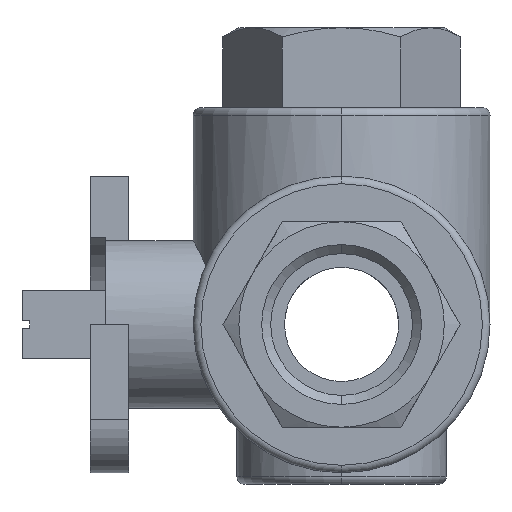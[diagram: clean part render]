
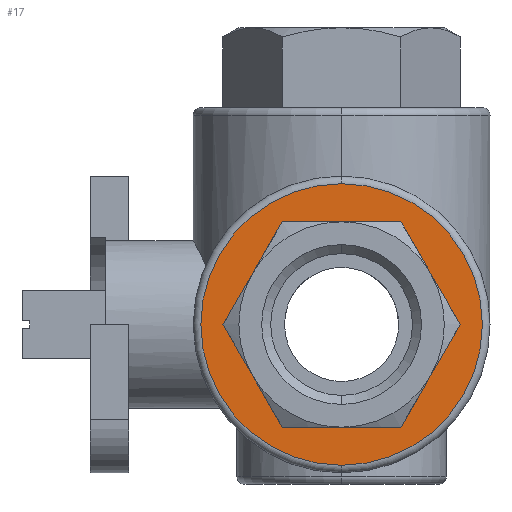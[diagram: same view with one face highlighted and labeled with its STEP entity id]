
A CAD part, left-side view. The second image highlights one B-rep face of the part: STEP entity #17.
In plain terms, the highlighted planar face has unit normal (-1, 0, 0).
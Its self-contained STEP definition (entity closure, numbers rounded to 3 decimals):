
#17 = ADVANCED_FACE ( 'NONE', ( #741, #729 ), #1676, .T. ) ;
#650 = EDGE_LOOP ( 'NONE', ( #4405, #4406 ) ) ;
#669 = EDGE_LOOP ( 'NONE', ( #4407, #4408, #4409, #4410, #4411, #4412 ) ) ;
#729 = FACE_BOUND ( 'NONE', #669, .T. ) ;
#741 = FACE_OUTER_BOUND ( 'NONE', #650, .T. ) ;
#845 = EDGE_CURVE ( 'NONE', #1528, #1534, #2977, .T. ) ;
#848 = EDGE_CURVE ( 'NONE', #1535, #1531, #2948, .T. ) ;
#851 = EDGE_CURVE ( 'NONE', #1537, #1535, #2982, .T. ) ;
#855 = EDGE_CURVE ( 'NONE', #1534, #1537, #2962, .T. ) ;
#879 = EDGE_CURVE ( 'NONE', #1607, #1603, #3011, .T. ) ;
#924 = AXIS2_PLACEMENT_3D ( 'NONE', #1668, #1677, #1678 ) ;
#1063 = AXIS2_PLACEMENT_3D ( 'NONE', #2329, #2351, #2352 ) ;
#1095 = AXIS2_PLACEMENT_3D ( 'NONE', #2688, #2689, #2690 ) ;
#1228 = EDGE_CURVE ( 'NONE', #1603, #1607, #3066, .T. ) ;
#1367 = EDGE_CURVE ( 'NONE', #1529, #1528, #3253, .T. ) ;
#1373 = EDGE_CURVE ( 'NONE', #1531, #1529, #3260, .T. ) ;
#1528 = VERTEX_POINT ( 'NONE', #4128 ) ;
#1529 = VERTEX_POINT ( 'NONE', #4129 ) ;
#1531 = VERTEX_POINT ( 'NONE', #4131 ) ;
#1534 = VERTEX_POINT ( 'NONE', #4134 ) ;
#1535 = VERTEX_POINT ( 'NONE', #4135 ) ;
#1537 = VERTEX_POINT ( 'NONE', #4137 ) ;
#1603 = VERTEX_POINT ( 'NONE', #4203 ) ;
#1607 = VERTEX_POINT ( 'NONE', #4207 ) ;
#1668 = CARTESIAN_POINT ( 'NONE',  ( -28.5, 0., 0. ) ) ;
#1676 = PLANE ( 'NONE',  #924 ) ;
#1677 = DIRECTION ( 'NONE',  ( -1., 0., 0. ) ) ;
#1678 = DIRECTION ( 'NONE',  ( 0., 0., 1. ) ) ;
#2182 = CARTESIAN_POINT ( 'NONE',  ( -28.5, 11.691, -6.75 ) ) ;
#2185 = CARTESIAN_POINT ( 'NONE',  ( -28.5, -11.691, 6.75 ) ) ;
#2192 = DIRECTION ( 'NONE',  ( 0., -0.5, -0.866 ) ) ;
#2202 = DIRECTION ( 'NONE',  ( 0., 0.5, 0.866 ) ) ;
#2212 = CARTESIAN_POINT ( 'NONE',  ( -28.5, 0., -13.5 ) ) ;
#2218 = DIRECTION ( 'NONE',  ( 0., 1., 0. ) ) ;
#2241 = CARTESIAN_POINT ( 'NONE',  ( -28.5, -11.691, -6.75 ) ) ;
#2242 = DIRECTION ( 'NONE',  ( 0., 0.5, -0.866 ) ) ;
#2329 = CARTESIAN_POINT ( 'NONE',  ( -28.5, 0., 0. ) ) ;
#2351 = DIRECTION ( 'NONE',  ( -1., 0., 0. ) ) ;
#2352 = DIRECTION ( 'NONE',  ( 0., 0., 1. ) ) ;
#2688 = CARTESIAN_POINT ( 'NONE',  ( -28.5, 0., 0. ) ) ;
#2689 = DIRECTION ( 'NONE',  ( -1., 0., 0. ) ) ;
#2690 = DIRECTION ( 'NONE',  ( 0., 0., 1. ) ) ;
#2948 = LINE ( 'NONE', #2182, #2981 ) ;
#2958 = VECTOR ( 'NONE', #2218, 1000. ) ;
#2962 = LINE ( 'NONE', #2241, #2986 ) ;
#2977 = LINE ( 'NONE', #2185, #2978 ) ;
#2978 = VECTOR ( 'NONE', #2192, 1000. ) ;
#2981 = VECTOR ( 'NONE', #2202, 1000. ) ;
#2982 = LINE ( 'NONE', #2212, #2958 ) ;
#2986 = VECTOR ( 'NONE', #2242, 1000. ) ;
#3011 = CIRCLE ( 'NONE', #1063, 18.5 ) ;
#3066 = CIRCLE ( 'NONE', #1095, 18.5 ) ;
#3242 = VECTOR ( 'NONE', #3830, 1000. ) ;
#3253 = LINE ( 'NONE', #3829, #3242 ) ;
#3260 = LINE ( 'NONE', #3841, #3262 ) ;
#3262 = VECTOR ( 'NONE', #3850, 1000. ) ;
#3829 = CARTESIAN_POINT ( 'NONE',  ( -28.5, 0., 13.5 ) ) ;
#3830 = DIRECTION ( 'NONE',  ( 0., -1., 0. ) ) ;
#3841 = CARTESIAN_POINT ( 'NONE',  ( -28.5, 11.691, 6.75 ) ) ;
#3850 = DIRECTION ( 'NONE',  ( 0., -0.5, 0.866 ) ) ;
#4128 = CARTESIAN_POINT ( 'NONE',  ( -28.5, -7.794, 13.5 ) ) ;
#4129 = CARTESIAN_POINT ( 'NONE',  ( -28.5, 7.794, 13.5 ) ) ;
#4131 = CARTESIAN_POINT ( 'NONE',  ( -28.5, 15.588, 0. ) ) ;
#4134 = CARTESIAN_POINT ( 'NONE',  ( -28.5, -15.588, 0. ) ) ;
#4135 = CARTESIAN_POINT ( 'NONE',  ( -28.5, 7.794, -13.5 ) ) ;
#4137 = CARTESIAN_POINT ( 'NONE',  ( -28.5, -7.794, -13.5 ) ) ;
#4203 = CARTESIAN_POINT ( 'NONE',  ( -28.5, 0., 18.5 ) ) ;
#4207 = CARTESIAN_POINT ( 'NONE',  ( -28.5, 0., -18.5 ) ) ;
#4405 = ORIENTED_EDGE ( 'NONE', *, *, #1228, .T. ) ;
#4406 = ORIENTED_EDGE ( 'NONE', *, *, #879, .T. ) ;
#4407 = ORIENTED_EDGE ( 'NONE', *, *, #1373, .T. ) ;
#4408 = ORIENTED_EDGE ( 'NONE', *, *, #1367, .T. ) ;
#4409 = ORIENTED_EDGE ( 'NONE', *, *, #845, .T. ) ;
#4410 = ORIENTED_EDGE ( 'NONE', *, *, #855, .T. ) ;
#4411 = ORIENTED_EDGE ( 'NONE', *, *, #851, .T. ) ;
#4412 = ORIENTED_EDGE ( 'NONE', *, *, #848, .T. ) ;
